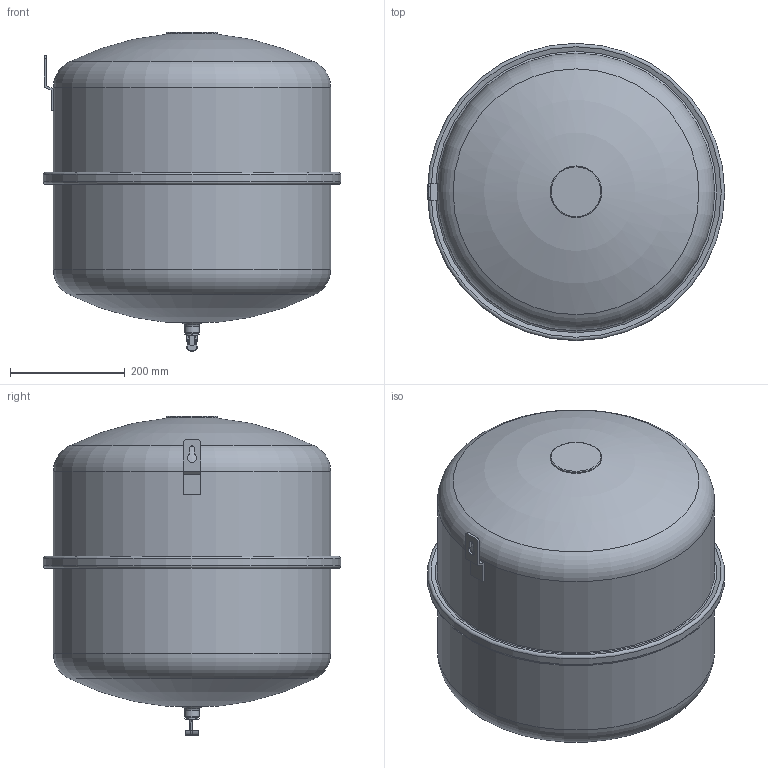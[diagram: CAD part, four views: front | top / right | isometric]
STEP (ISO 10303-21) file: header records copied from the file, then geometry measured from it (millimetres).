
FILE_DESCRIPTION(/* description */ (''),/* implementation_level */ '2;1');
FILE_NAME(/* name */ '\\dataserver\data\Flamco\3D-Modellen\Inventor\Airfix\Airfix A\24809_airfix_a_80l_8_4.stp',/* time_stamp */ '2025-03-17T13:53:18+01:00',/* author */ ('kasius'),/* organization */ (''),/* preprocessor_version */ 'ST-DEVELOPER v18.1',/* originating_system */ 'Autodesk Inventor 2021',/* authorisation */ '');
FILE_SCHEMA (('AUTOMOTIVE_DESIGN { 1 0 10303 214 3 1 1 }'));
Length unit declared in the file: millimetre
Products named in the file (1): 24809_airfix_a_80l_8_4
Bounding box: 519 x 519 x 557.34 mm (x, y, z)
Volume: 81611642.4 mm3; surface area: 1049785.7 mm2
Topology: 3 solids, 3 shells, 132 faces, 368 edges, 249 vertices
Faces by surface type: plane 91, cylinder 22, cone 9, torus 8, sphere 2
Full cylindrical faces by diameter (mm): 7 x1, 8.8 x1, 9 x1, 12.5 x1, 16 x1, 18 x1, 20 x1, 20.8 x1, 26 x1, 90 x1, 484 x2, 519 x1
Entity records: 4370 total; most frequent: DIRECTION 759, CARTESIAN_POINT 750, ORIENTED_EDGE 736, EDGE_CURVE 368, AXIS2_PLACEMENT_3D 258, VERTEX_POINT 249, LINE 243, VECTOR 243
